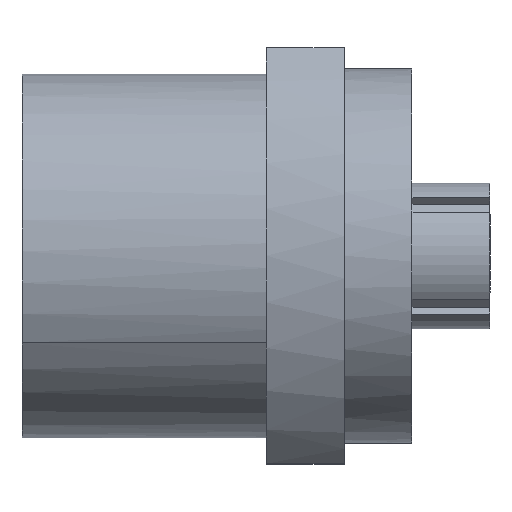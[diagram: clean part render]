
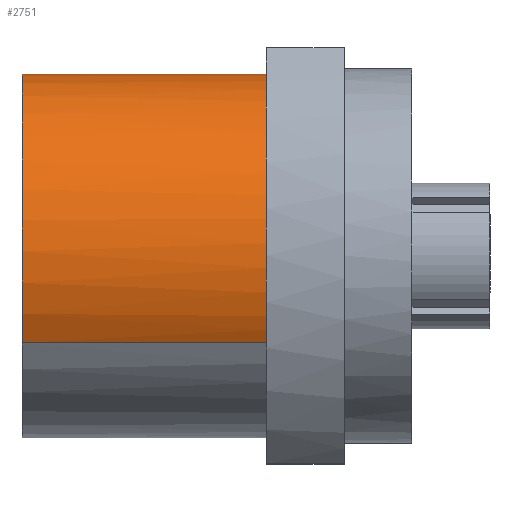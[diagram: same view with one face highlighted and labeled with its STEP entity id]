
A CAD part, top view. The second image highlights one B-rep face of the part: STEP entity #2751.
In plain terms, the highlighted cylindrical face has radius 35 mm (diameter 70 mm), a partial arc.
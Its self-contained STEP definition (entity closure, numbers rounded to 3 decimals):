
#1862=CARTESIAN_POINT('Control Point',(-15.,16.78,-30.715)) ;
#1863=CARTESIAN_POINT('Control Point',(-15.,19.578,-29.187)) ;
#1864=CARTESIAN_POINT('Control Point',(-15.,22.201,-27.34)) ;
#1865=CARTESIAN_POINT('Control Point',(-15.,24.603,-25.201)) ;
#1866=CARTESIAN_POINT('Control Point',(-15.,28.876,-20.413)) ;
#1867=CARTESIAN_POINT('Control Point',(-15.,31.964,-14.788)) ;
#1868=CARTESIAN_POINT('Control Point',(-15.,33.18,-11.81)) ;
#1869=CARTESIAN_POINT('Control Point',(-15.,34.912,-5.631)) ;
#1870=CARTESIAN_POINT('Control Point',(-15.,35.21,0.78)) ;
#1871=CARTESIAN_POINT('Control Point',(-15.,34.992,3.988)) ;
#1872=CARTESIAN_POINT('Control Point',(-15.,33.83,10.299)) ;
#1873=CARTESIAN_POINT('Control Point',(-15.,31.278,16.188)) ;
#1874=CARTESIAN_POINT('Control Point',(-15.,29.671,18.974)) ;
#1875=CARTESIAN_POINT('Control Point',(-15.,25.851,24.13)) ;
#1876=CARTESIAN_POINT('Control Point',(-15.,20.97,28.296)) ;
#1877=CARTESIAN_POINT('Control Point',(-15.,18.301,30.091)) ;
#1878=CARTESIAN_POINT('Control Point',(-15.,12.602,33.041)) ;
#1879=CARTESIAN_POINT('Control Point',(-15.,6.386,34.635)) ;
#1880=CARTESIAN_POINT('Control Point',(-15.,3.2,35.073)) ;
#1881=CARTESIAN_POINT('Control Point',(-15.,-2.888,35.209)) ;
#1882=CARTESIAN_POINT('Control Point',(-15.,-8.858,34.043)) ;
#1883=CARTESIAN_POINT('Control Point',(-15.,-11.615,33.203)) ;
#1884=CARTESIAN_POINT('Control Point',(-15.,-14.268,32.088)) ;
#1885=CARTESIAN_POINT('Control Point',(-15.,-16.78,30.715)) ;
#1886=CARTESIAN_POINT('Vertex',(-15.,16.78,-30.715)) ;
#1888=CARTESIAN_POINT('Vertex',(-15.,-16.78,30.715)) ;
#2721=CARTESIAN_POINT('Axis2P3D Location',(-83.361,0.,0.)) ;
#2726=CARTESIAN_POINT('Line Origine',(-83.361,-16.78,30.715)) ;
#2730=CARTESIAN_POINT('Vertex',(-62.,-16.78,30.715)) ;
#2733=CARTESIAN_POINT('Line Origine',(-83.361,16.78,-30.715)) ;
#2737=CARTESIAN_POINT('Vertex',(-62.,16.78,-30.715)) ;
#2740=CARTESIAN_POINT('Axis2P3D Location',(-62.,0.,0.)) ;
#2722=DIRECTION('Axis2P3D Direction',(1.,0.,0.)) ;
#2723=DIRECTION('Axis2P3D XDirection',(0.,0.479,-0.878)) ;
#2727=DIRECTION('Vector Direction',(1.,0.,0.)) ;
#2734=DIRECTION('Vector Direction',(1.,0.,0.)) ;
#2741=DIRECTION('Axis2P3D Direction',(1.,0.,0.)) ;
#2724=AXIS2_PLACEMENT_3D('Cylinder Axis2P3D',#2721,#2722,#2723) ;
#2742=AXIS2_PLACEMENT_3D('Circle Axis2P3D',#2740,#2741,$) ;
#2746=ORIENTED_EDGE('',*,*,#2732,.F.) ;
#2747=ORIENTED_EDGE('',*,*,#1890,.F.) ;
#2748=ORIENTED_EDGE('',*,*,#2739,.T.) ;
#2749=ORIENTED_EDGE('',*,*,#2744,.T.) ;
#2728=VECTOR('Line Direction',#2727,1.) ;
#2735=VECTOR('Line Direction',#2734,1.) ;
#2751=ADVANCED_FACE('WBK17DFD',(#2750),#2725,.T.) ;
#1861=B_SPLINE_CURVE_WITH_KNOTS('',5,(#1862,#1863,#1864,#1865,#1866,#1867,#1868,#1869,#1870,#1871,#1872,#1873,#1874,#1875,#1876,#1877,#1878,#1879,#1880,#1881,#1882,#1883,#1884,#1885),.UNSPECIFIED.,.F.,.U.,(6,3,3,3,3,3,3,6),(0.,22.543,45.086,67.629,90.172,112.716,135.259,155.5),.UNSPECIFIED.) ;
#2743=CIRCLE('generated circle',#2742,35.) ;
#2725=CYLINDRICAL_SURFACE('generated cylinder',#2724,35.) ;
#1890=EDGE_CURVE('',#1887,#1889,#1861,.T.) ;
#2732=EDGE_CURVE('',#1889,#2731,#2729,.F.) ;
#2739=EDGE_CURVE('',#1887,#2738,#2736,.F.) ;
#2744=EDGE_CURVE('',#2738,#2731,#2743,.T.) ;
#2745=EDGE_LOOP('',(#2746,#2747,#2748,#2749)) ;
#2750=FACE_OUTER_BOUND('',#2745,.T.) ;
#2729=LINE('Line',#2726,#2728) ;
#2736=LINE('Line',#2733,#2735) ;
#1887=VERTEX_POINT('',#1886) ;
#1889=VERTEX_POINT('',#1888) ;
#2731=VERTEX_POINT('',#2730) ;
#2738=VERTEX_POINT('',#2737) ;
